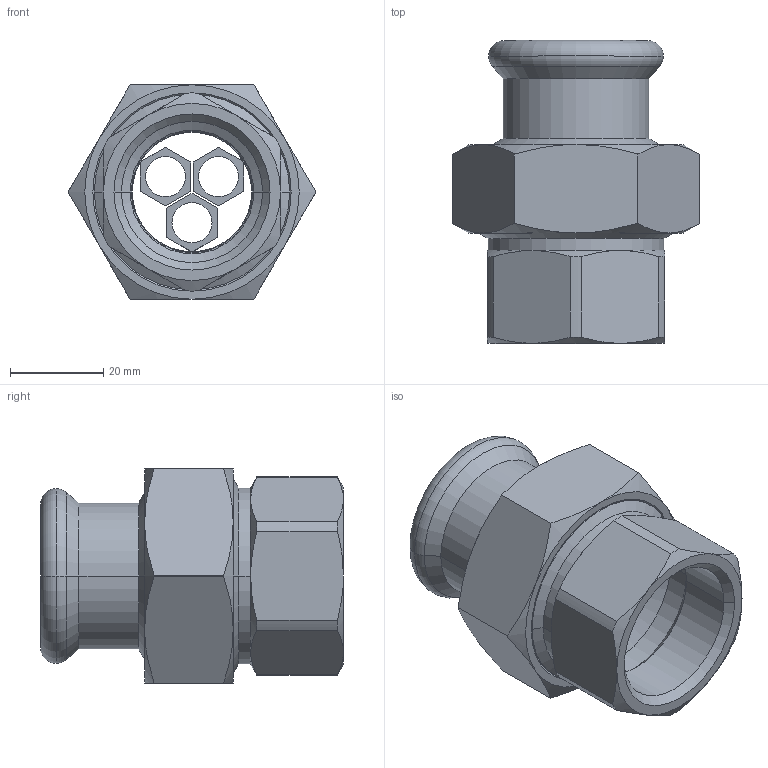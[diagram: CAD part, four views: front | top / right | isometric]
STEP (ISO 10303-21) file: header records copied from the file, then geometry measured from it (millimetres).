
FILE_DESCRIPTION(('OneSpaceDesigner STEP Export'),'2;1');
FILE_NAME('R2738 28xRp1.stp','2010-06-10T14:25:10',(''),(''),'OneSpace Designer STEP processor for AP214 (Solid Model)','OneSpace Modeling 15.00A 14-Mar-2007 (C) CoCreate Software GmbH','');
FILE_SCHEMA(('AUTOMOTIVE_DESIGN { 1 0 10303 214 1 1 1 1 }'));
Length unit declared in the file: millimetre
Products named in the file (2): R2738_28xRp1
Assembly tree (1 placements, depth 2):
  R2738_28xRp1
    R2738_28xRp1
Bounding box: 53.12 x 65 x 46 mm (x, y, z)
Volume: 38349.8 mm3; surface area: 20658.6 mm2
Topology: 1 solids, 1 shells, 152 faces, 357 edges, 216 vertices
Faces by surface type: cylinder 51, plane 47, cone 46, torus 8
Entity records: 5420 total; most frequent: CARTESIAN_POINT 2415, ORIENTED_EDGE 714, DIRECTION 471, EDGE_CURVE 357, VERTEX_POINT 216, EDGE_LOOP 169, VECTOR 163, LINE 163
